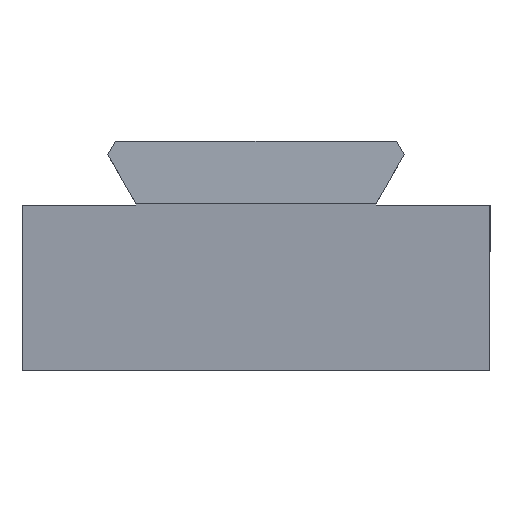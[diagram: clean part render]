
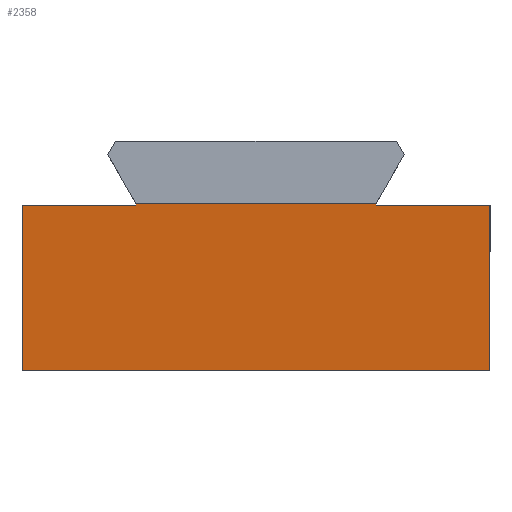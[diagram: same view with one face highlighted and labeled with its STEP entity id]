
A CAD part, left-side view. The second image highlights one B-rep face of the part: STEP entity #2358.
In plain terms, the highlighted planar face has unit normal (-0.996, 0, -0.087).
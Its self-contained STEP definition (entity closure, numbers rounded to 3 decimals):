
#217=PLANE('',#2531);
#312=FACE_OUTER_BOUND('',#447,.T.);
#447=EDGE_LOOP('',(#1746,#1747,#1748,#1749,#1750,#1751,#1752,#1753));
#590=LINE('',#3173,#801);
#600=LINE('',#3199,#811);
#609=LINE('',#3219,#820);
#615=LINE('',#3235,#826);
#624=LINE('',#3258,#835);
#625=LINE('',#3260,#836);
#626=LINE('',#3262,#837);
#627=LINE('',#3263,#838);
#801=VECTOR('',#2709,10.);
#811=VECTOR('',#2729,10.);
#820=VECTOR('',#2742,10.);
#826=VECTOR('',#2756,10.);
#835=VECTOR('',#2781,10.);
#836=VECTOR('',#2782,10.);
#837=VECTOR('',#2783,10.);
#838=VECTOR('',#2784,10.);
#1035=VERTEX_POINT('',#3171);
#1036=VERTEX_POINT('',#3172);
#1047=VERTEX_POINT('',#3198);
#1055=VERTEX_POINT('',#3216);
#1056=VERTEX_POINT('',#3218);
#1062=VERTEX_POINT('',#3233);
#1069=VERTEX_POINT('',#3259);
#1070=VERTEX_POINT('',#3261);
#1288=EDGE_CURVE('',#1035,#1036,#590,.T.);
#1301=EDGE_CURVE('',#1036,#1047,#600,.T.);
#1310=EDGE_CURVE('',#1056,#1055,#609,.T.);
#1319=EDGE_CURVE('',#1055,#1062,#615,.T.);
#1331=EDGE_CURVE('',#1056,#1047,#624,.T.);
#1332=EDGE_CURVE('',#1062,#1069,#625,.T.);
#1333=EDGE_CURVE('',#1070,#1069,#626,.F.);
#1334=EDGE_CURVE('',#1035,#1070,#627,.F.);
#1746=ORIENTED_EDGE('',*,*,#1288,.T.);
#1747=ORIENTED_EDGE('',*,*,#1301,.T.);
#1748=ORIENTED_EDGE('',*,*,#1331,.F.);
#1749=ORIENTED_EDGE('',*,*,#1310,.T.);
#1750=ORIENTED_EDGE('',*,*,#1319,.T.);
#1751=ORIENTED_EDGE('',*,*,#1332,.T.);
#1752=ORIENTED_EDGE('',*,*,#1333,.F.);
#1753=ORIENTED_EDGE('',*,*,#1334,.F.);
#2358=ADVANCED_FACE('',(#312),#217,.T.);
#2531=AXIS2_PLACEMENT_3D('',#3257,#2779,#2780);
#2709=DIRECTION('',(0.,1.,0.));
#2729=DIRECTION('',(-0.087,0.,0.996));
#2742=DIRECTION('',(0.087,0.,-0.996));
#2756=DIRECTION('',(0.,1.,0.));
#2779=DIRECTION('center_axis',(-0.996,0.,
-0.087));
#2780=DIRECTION('ref_axis',(0.,1.,0.));
#2781=DIRECTION('',(0.,-1.,0.));
#2782=DIRECTION('',(0.087,0.,-0.996));
#2783=DIRECTION('',(0.,-1.,0.));
#2784=DIRECTION('',(-0.087,0.,0.996));
#3171=CARTESIAN_POINT('',(0.009,0.,7.9));
#3172=CARTESIAN_POINT('',(0.009,7.307,7.9));
#3173=CARTESIAN_POINT('',(0.009,1.827,7.9));
#3198=CARTESIAN_POINT('',(0.,7.307,8.));
#3199=CARTESIAN_POINT('',(0.,7.307,8.));
#3216=CARTESIAN_POINT('',(0.009,22.693,7.9));
#3218=CARTESIAN_POINT('',(0.,22.693,8.));
#3219=CARTESIAN_POINT('',(0.209,22.693,5.612));
#3233=CARTESIAN_POINT('',(0.009,30.,7.9));
#3235=CARTESIAN_POINT('',(0.009,13.173,7.9));
#3257=CARTESIAN_POINT('Origin',(0.,0.,
8.));
#3258=CARTESIAN_POINT('',(0.,30.,8.));
#3259=CARTESIAN_POINT('',(0.939,30.,-2.73));
#3260=CARTESIAN_POINT('',(0.,30.,8.));
#3261=CARTESIAN_POINT('',(0.939,0.,-2.73));
#3262=CARTESIAN_POINT('',(0.939,7.5,-2.73));
#3263=CARTESIAN_POINT('',(0.209,0.,5.612));
